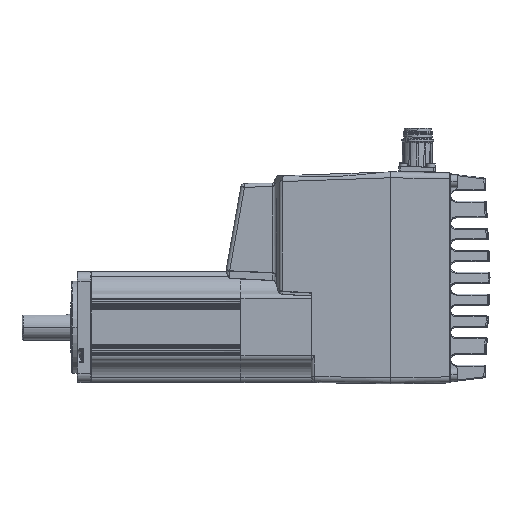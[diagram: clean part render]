
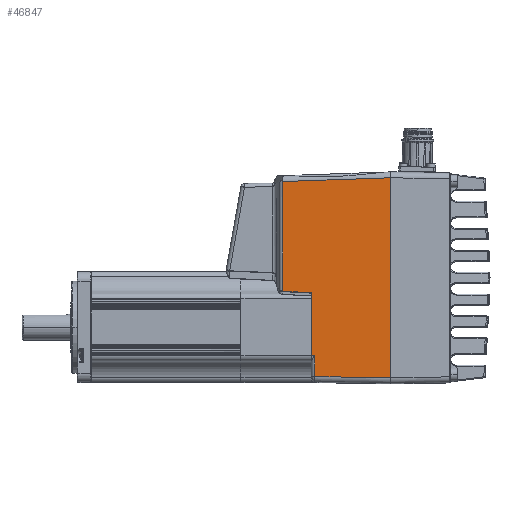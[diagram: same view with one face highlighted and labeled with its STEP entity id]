
A CAD part, top view. The second image highlights one B-rep face of the part: STEP entity #46847.
In plain terms, the highlighted planar face has unit normal (-0.035, 0, 0.999) as drawn and (0.999, 0, 0.035) by its records, which use the part's own axes.
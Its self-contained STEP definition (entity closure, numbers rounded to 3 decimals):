
#3180=CARTESIAN_POINT('',(29.458,-7.285,58.468));
#3934=DIRECTION('',(0.,1.,0.));
#3935=VECTOR('',#3934,108.598);
#3936=CARTESIAN_POINT('',(31.497,-54.3,
0.097));
#3937=LINE('',#3936,#3935);
#4334=DIRECTION('',(-0.035,0.017,0.999));
#4335=VECTOR('',#4334,40.954);
#4336=CARTESIAN_POINT('',(31.497,-54.3,
0.097));
#4337=LINE('',#4336,#4335);
#4341=CARTESIAN_POINT('',(30.002,-8.093,42.903));
#4342=CARTESIAN_POINT('',(29.84,-7.815,47.536));
#4343=CARTESIAN_POINT('',(29.658,-7.545,52.737));
#4344=CARTESIAN_POINT('',(29.458,-7.285,58.468));
#4349=DIRECTION('',(0.035,0.035,-0.999));
#4350=VECTOR('',#4349,58.442);
#4351=CARTESIAN_POINT('',(29.458,52.26,58.468));
#4352=LINE('',#4351,#4350);
#5142=DIRECTION('',(0.036,0.,-0.999));
#5143=VECTOR('',#5142,1.885);
#5144=CARTESIAN_POINT('',(30.001,-42.249,42.904));
#5145=LINE('',#5144,#5143);
#5184=DIRECTION('',(0.,-1.,0.));
#5185=VECTOR('',#5184,11.336);
#5186=CARTESIAN_POINT('',(30.068,-42.249,41.02));
#5187=LINE('',#5186,#5185);
#5389=DIRECTION('',(0.,-1.,0.));
#5390=VECTOR('',#5389,34.156);
#5391=CARTESIAN_POINT('',(30.002,-8.093,42.903));
#5392=LINE('',#5391,#5390);
#5748=DIRECTION('',(0.,-1.,0.));
#5749=VECTOR('',#5748,59.545);
#5750=CARTESIAN_POINT('',(29.458,52.26,58.468));
#5751=LINE('',#5750,#5749);
#37258=VERTEX_POINT('',#3180);
#37288=CARTESIAN_POINT('',(30.001,-42.249,
42.904));
#37290=VERTEX_POINT('',#37288);
#37294=CARTESIAN_POINT('',(30.068,-42.249,
41.02));
#37295=VERTEX_POINT('',#37294);
#37296=CARTESIAN_POINT('',(31.497,-54.3,
0.097));
#37297=CARTESIAN_POINT('',(30.068,-53.585,
41.02));
#37298=VERTEX_POINT('',#37296);
#37299=VERTEX_POINT('',#37297);
#37300=VERTEX_POINT('',#4341);
#37301=CARTESIAN_POINT('',(29.458,52.26,58.468));
#37302=CARTESIAN_POINT('',(31.496,54.299,
0.097));
#37303=VERTEX_POINT('',#37301);
#37304=VERTEX_POINT('',#37302);
#46827=CARTESIAN_POINT('',(30.477,-0.001,
29.282));
#46828=DIRECTION('',(0.999,0.,0.035));
#46829=DIRECTION('',(0.,-1.,0.));
#46830=AXIS2_PLACEMENT_3D('',#46827,#46828,#46829);
#46831=PLANE('',#46830);
#46833=ORIENTED_EDGE('',*,*,#46832,.T.);
#46835=ORIENTED_EDGE('',*,*,#46834,.F.);
#46837=ORIENTED_EDGE('',*,*,#46836,.F.);
#46839=ORIENTED_EDGE('',*,*,#46838,.F.);
#46840=ORIENTED_EDGE('',*,*,#45916,.T.);
#46842=ORIENTED_EDGE('',*,*,#46841,.F.);
#46843=ORIENTED_EDGE('',*,*,#46818,.T.);
#46844=ORIENTED_EDGE('',*,*,#46520,.F.);
#46845=EDGE_LOOP('',(#46833,#46835,#46837,#46839,#46840,#46842,#46843,#46844));
#46846=FACE_OUTER_BOUND('',#46845,.F.);
#4345=B_SPLINE_CURVE_WITH_KNOTS('',3,(#4341,#4342,#4343,#4344),.UNSPECIFIED.,
.F.,.F.,(4,4),(0.,1.),.UNSPECIFIED.);
#45916=EDGE_CURVE('',#37300,#37258,#4345,.T.);
#46520=EDGE_CURVE('',#37298,#37304,#3937,.T.);
#46818=EDGE_CURVE('',#37303,#37304,#4352,.T.);
#46832=EDGE_CURVE('',#37298,#37299,#4337,.T.);
#46834=EDGE_CURVE('',#37295,#37299,#5187,.T.);
#46836=EDGE_CURVE('',#37290,#37295,#5145,.T.);
#46838=EDGE_CURVE('',#37300,#37290,#5392,.T.);
#46841=EDGE_CURVE('',#37303,#37258,#5751,.T.);
#46847=ADVANCED_FACE('',(#46846),#46831,.T.);
